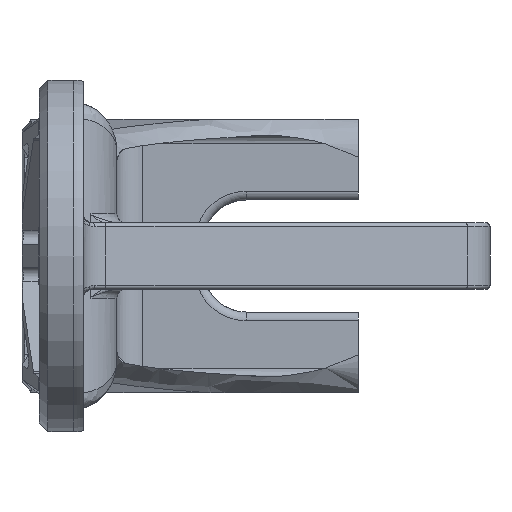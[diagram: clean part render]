
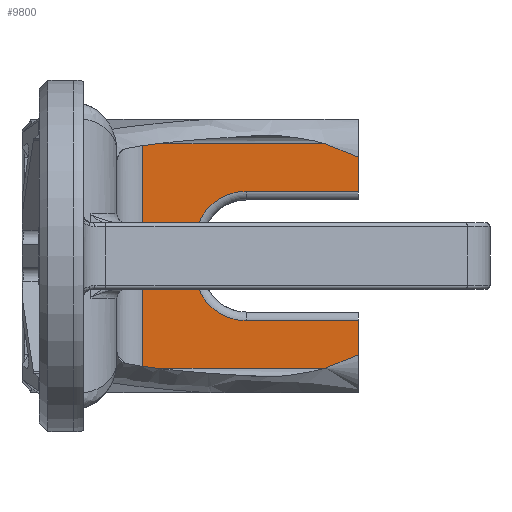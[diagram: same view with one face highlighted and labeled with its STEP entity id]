
A CAD part, left-side view. The second image highlights one B-rep face of the part: STEP entity #9800.
In plain terms, the highlighted planar face has unit normal (-1, 0, 0).
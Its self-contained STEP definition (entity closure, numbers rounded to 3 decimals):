
#277=PLANE('',#10766);
#365=B_SPLINE_CURVE_WITH_KNOTS('',3,(#15257,#15258,#15259,#15260,#15261,
#15262,#15263,#15264),.UNSPECIFIED.,.F.,.F.,(4,2,2,4),(-0.002,
0.,0.203,0.409),.UNSPECIFIED.);
#373=B_SPLINE_CURVE_WITH_KNOTS('',3,(#15444,#15445,#15446,#15447),
 .UNSPECIFIED.,.F.,.F.,(4,4),(-0.002,0.),.UNSPECIFIED.);
#374=B_SPLINE_CURVE_WITH_KNOTS('',3,(#15449,#15450,#15451,#15452,#15453,
#15454,#15455,#15456),.UNSPECIFIED.,.F.,.F.,(4,2,2,4),(0.,
0.205,0.408,0.411),.UNSPECIFIED.);
#787=LINE('',#15949,#1413);
#900=LINE('',#18122,#1526);
#1197=LINE('',#26863,#1823);
#1198=LINE('',#26864,#1824);
#1199=LINE('',#26866,#1825);
#1200=LINE('',#26870,#1826);
#1201=LINE('',#26873,#1827);
#1202=LINE('',#26874,#1828);
#1413=VECTOR('',#11588,1000.);
#1526=VECTOR('',#12105,1000.);
#1823=VECTOR('',#13176,1000.);
#1824=VECTOR('',#13177,1000.);
#1825=VECTOR('',#13178,1000.);
#1826=VECTOR('',#13181,1000.);
#1827=VECTOR('',#13184,1000.);
#1828=VECTOR('',#13185,1000.);
#2575=FACE_OUTER_BOUND('',#3185,.T.);
#3185=EDGE_LOOP('',(#8679,#8680,#8681,#8682,#8683,#8684,#8685,#8686,#8687,
#8688,#8689,#8690,#8691));
#3734=CIRCLE('',#10767,6.);
#3735=CIRCLE('',#10768,6.);
#4126=VERTEX_POINT('',#15253);
#4128=VERTEX_POINT('',#15256);
#4133=VERTEX_POINT('',#15432);
#4134=VERTEX_POINT('',#15443);
#4135=VERTEX_POINT('',#15448);
#4201=VERTEX_POINT('',#15947);
#4481=VERTEX_POINT('',#18121);
#4682=VERTEX_POINT('',#26861);
#4683=VERTEX_POINT('',#26862);
#4684=VERTEX_POINT('',#26865);
#4685=VERTEX_POINT('',#26867);
#4686=VERTEX_POINT('',#26869);
#4687=VERTEX_POINT('',#26871);
#5076=EDGE_CURVE('',#4126,#4128,#365,.T.);
#5085=EDGE_CURVE('',#4134,#4133,#373,.T.);
#5086=EDGE_CURVE('',#4134,#4135,#374,.T.);
#5160=EDGE_CURVE('',#4126,#4201,#787,.T.);
#5529=EDGE_CURVE('',#4481,#4135,#900,.T.);
#6055=EDGE_CURVE('',#4682,#4683,#1197,.T.);
#6056=EDGE_CURVE('',#4683,#4128,#1198,.T.);
#6057=EDGE_CURVE('',#4201,#4684,#1199,.T.);
#6058=EDGE_CURVE('',#4684,#4685,#3734,.T.);
#6059=EDGE_CURVE('',#4685,#4686,#1200,.T.);
#6060=EDGE_CURVE('',#4686,#4687,#3735,.T.);
#6061=EDGE_CURVE('',#4687,#4481,#1201,.T.);
#6062=EDGE_CURVE('',#4133,#4682,#1202,.T.);
#8679=ORIENTED_EDGE('',*,*,#6055,.T.);
#8680=ORIENTED_EDGE('',*,*,#6056,.T.);
#8681=ORIENTED_EDGE('',*,*,#5076,.F.);
#8682=ORIENTED_EDGE('',*,*,#5160,.T.);
#8683=ORIENTED_EDGE('',*,*,#6057,.T.);
#8684=ORIENTED_EDGE('',*,*,#6058,.T.);
#8685=ORIENTED_EDGE('',*,*,#6059,.T.);
#8686=ORIENTED_EDGE('',*,*,#6060,.T.);
#8687=ORIENTED_EDGE('',*,*,#6061,.T.);
#8688=ORIENTED_EDGE('',*,*,#5529,.T.);
#8689=ORIENTED_EDGE('',*,*,#5086,.F.);
#8690=ORIENTED_EDGE('',*,*,#5085,.T.);
#8691=ORIENTED_EDGE('',*,*,#6062,.T.);
#9800=ADVANCED_FACE('',(#2575),#277,.T.);
#10766=AXIS2_PLACEMENT_3D('',#26860,#13174,#13175);
#10767=AXIS2_PLACEMENT_3D('',#26868,#13179,#13180);
#10768=AXIS2_PLACEMENT_3D('',#26872,#13182,#13183);
#11588=DIRECTION('',(0.,0.,1.));
#12105=DIRECTION('',(0.,0.,1.));
#13174=DIRECTION('center_axis',(-1.,0.,0.));
#13175=DIRECTION('ref_axis',(0.,-1.,0.));
#13176=DIRECTION('',(0.,0.,-1.));
#13177=DIRECTION('',(0.,-1.,0.));
#13178=DIRECTION('',(0.,1.,0.));
#13179=DIRECTION('center_axis',(1.,0.,0.));
#13180=DIRECTION('ref_axis',(0.,-1.,0.));
#13181=DIRECTION('',(0.,0.,1.));
#13182=DIRECTION('center_axis',(1.,0.,0.));
#13183=DIRECTION('ref_axis',(0.,-1.,0.));
#13184=DIRECTION('',(0.,-1.,0.));
#13185=DIRECTION('',(0.,1.,0.));
#15253=CARTESIAN_POINT('',(166.1,-37.,-11.438));
#15256=CARTESIAN_POINT('',(166.1,-33.194,-12.986));
#15257=CARTESIAN_POINT('Ctrl Pts',(166.1,-37.,-11.438));
#15258=CARTESIAN_POINT('Ctrl Pts',(166.1,-36.993,-11.441));
#15259=CARTESIAN_POINT('Ctrl Pts',(166.1,-36.985,-11.444));
#15260=CARTESIAN_POINT('Ctrl Pts',(166.1,-36.353,-11.709));
#15261=CARTESIAN_POINT('Ctrl Pts',(166.1,-35.729,-11.97));
#15262=CARTESIAN_POINT('Ctrl Pts',(166.1,-34.468,-12.485));
#15263=CARTESIAN_POINT('Ctrl Pts',(166.1,-33.833,-12.739));
#15264=CARTESIAN_POINT('Ctrl Pts',(166.1,-33.194,-12.986));
#15432=CARTESIAN_POINT('',(166.1,-33.194,12.986));
#15443=CARTESIAN_POINT('',(166.1,-33.196,12.986));
#15444=CARTESIAN_POINT('Ctrl Pts',(166.1,-33.196,12.986));
#15445=CARTESIAN_POINT('Ctrl Pts',(166.1,-33.195,12.986));
#15446=CARTESIAN_POINT('Ctrl Pts',(166.1,-33.195,12.986));
#15447=CARTESIAN_POINT('Ctrl Pts',(166.1,-33.194,12.986));
#15448=CARTESIAN_POINT('',(166.1,-37.,11.438));
#15449=CARTESIAN_POINT('Ctrl Pts',(166.1,-33.196,12.985));
#15450=CARTESIAN_POINT('Ctrl Pts',(166.1,-33.834,12.739));
#15451=CARTESIAN_POINT('Ctrl Pts',(166.1,-34.47,12.485));
#15452=CARTESIAN_POINT('Ctrl Pts',(166.1,-35.73,11.97));
#15453=CARTESIAN_POINT('Ctrl Pts',(166.1,-36.354,11.709));
#15454=CARTESIAN_POINT('Ctrl Pts',(166.1,-36.985,11.444));
#15455=CARTESIAN_POINT('Ctrl Pts',(166.1,-36.993,11.441));
#15456=CARTESIAN_POINT('Ctrl Pts',(166.1,-37.,11.438));
#15947=CARTESIAN_POINT('',(166.1,-37.,-7.5));
#15949=CARTESIAN_POINT('',(166.1,-37.,7.9));
#18121=CARTESIAN_POINT('',(166.1,-37.,7.5));
#18122=CARTESIAN_POINT('',(166.1,-37.,7.9));
#26860=CARTESIAN_POINT('Origin',(166.1,-38.598,14.1));
#26861=CARTESIAN_POINT('',(166.1,-12.,12.986));
#26862=CARTESIAN_POINT('',(166.1,-12.,-12.986));
#26863=CARTESIAN_POINT('',(166.1,-12.,14.1));
#26864=CARTESIAN_POINT('',(166.1,-30.094,-12.986));
#26865=CARTESIAN_POINT('',(166.1,-24.,-7.5));
#26866=CARTESIAN_POINT('',(166.1,-38.598,-7.5));
#26867=CARTESIAN_POINT('',(166.1,-18.,-1.5));
#26868=CARTESIAN_POINT('Origin',(166.1,-24.,-1.5));
#26869=CARTESIAN_POINT('',(166.1,-18.,1.5));
#26870=CARTESIAN_POINT('',(166.1,-18.,1.5));
#26871=CARTESIAN_POINT('',(166.1,-24.,7.5));
#26872=CARTESIAN_POINT('Origin',(166.1,-24.,1.5));
#26873=CARTESIAN_POINT('',(166.1,-37.,7.5));
#26874=CARTESIAN_POINT('',(166.1,-12.,12.986));
